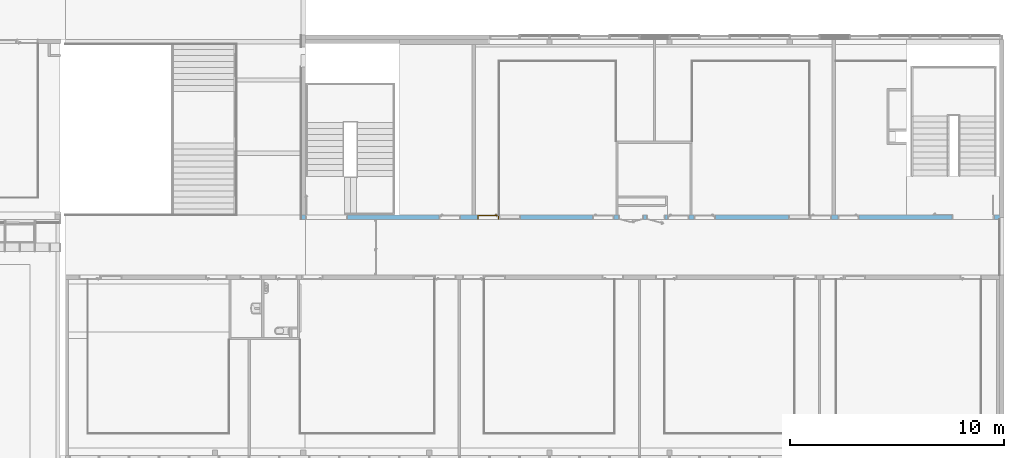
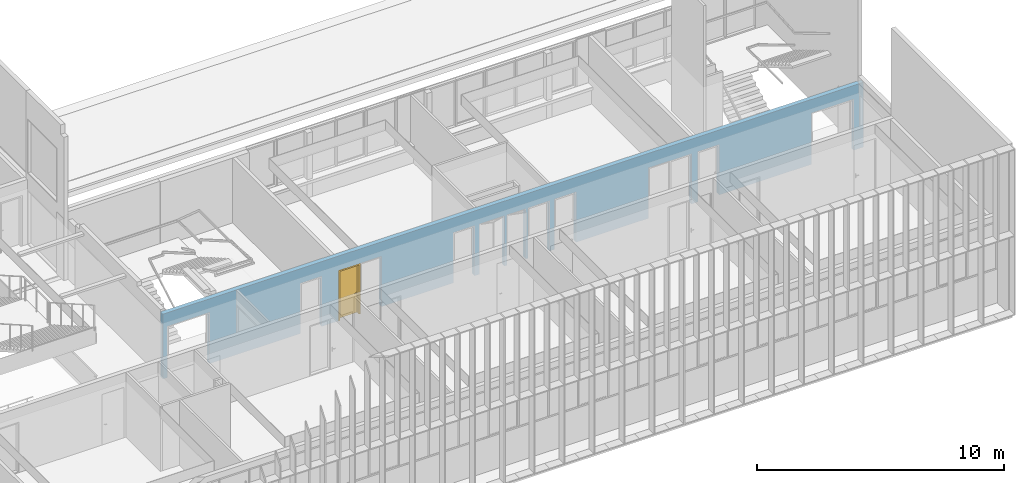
# One storey, part 85 of 106: 1 door, 13 openings, plus 1 element that does not belong to this part.
"""IFC2X3 building model written with IfcOpenShell, lengths in centimetres."""

from ifc_helpers import new_model, entity, si_unit, converted_unit, derived_unit, direction, frame, frame_2d, origin, place, context, subcontext, project, spatial, polyline, rectangle, extrude, clip, bounded_halfspace, faceted_brep, source, transform, mapped, material, material_list, layer, layer_set, layer_usage, type_object, type_shapes, element, fill, save


model = new_model("IFC2X3")

# Units and contexts
model_context = context("Model", 3, precision=0.001, world=origin(), true_north=direction((6.12303176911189e-17, 1.0)))
body_context = subcontext(model_context, "Body", "Model", "MODEL_VIEW")
ifc_project = project(units=[si_unit("LENGTHUNIT", "METRE", prefix="CENTI"), si_unit("AREAUNIT", "SQUARE_METRE"), si_unit("VOLUMEUNIT", "CUBIC_METRE"), converted_unit("PLANEANGLEUNIT", "DEGREE", entity("IfcRatioMeasure", 0.0174532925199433), si_unit("PLANEANGLEUNIT", "RADIAN"), dimensions=[0, 0, 0, 0, 0, 0, 0]), si_unit("MASSUNIT", "GRAM", prefix="KILO"), derived_unit("MASSDENSITYUNIT", [(si_unit("MASSUNIT", "GRAM", prefix="KILO"), 1), (si_unit("LENGTHUNIT", "METRE"), -3)]), si_unit("TIMEUNIT", "SECOND"), si_unit("FREQUENCYUNIT", "HERTZ"), si_unit("THERMODYNAMICTEMPERATUREUNIT", "DEGREE_CELSIUS"), derived_unit("THERMALTRANSMITTANCEUNIT", [(si_unit("MASSUNIT", "GRAM", prefix="KILO"), 1), (si_unit("THERMODYNAMICTEMPERATUREUNIT", "KELVIN"), -1), (si_unit("TIMEUNIT", "SECOND"), -3)]), derived_unit("VOLUMETRICFLOWRATEUNIT", [(si_unit("LENGTHUNIT", "METRE"), 3), (si_unit("TIMEUNIT", "SECOND"), -1)]), si_unit("ELECTRICCURRENTUNIT", "AMPERE"), si_unit("ELECTRICVOLTAGEUNIT", "VOLT"), si_unit("POWERUNIT", "WATT"), si_unit("FORCEUNIT", "NEWTON", prefix="KILO"), si_unit("ILLUMINANCEUNIT", "LUX"), si_unit("LUMINOUSFLUXUNIT", "LUMEN"), si_unit("LUMINOUSINTENSITYUNIT", "CANDELA"), derived_unit("USERDEFINED", [(si_unit("MASSUNIT", "GRAM", prefix="KILO"), -1), (si_unit("LENGTHUNIT", "METRE"), -2), (si_unit("TIMEUNIT", "SECOND"), 3), (si_unit("LUMINOUSFLUXUNIT", "LUMEN"), 1)]), derived_unit("LINEARVELOCITYUNIT", [(si_unit("LENGTHUNIT", "METRE"), 1), (si_unit("TIMEUNIT", "SECOND"), -1)]), si_unit("PRESSUREUNIT", "PASCAL"), derived_unit("USERDEFINED", [(si_unit("LENGTHUNIT", "METRE"), -2), (si_unit("MASSUNIT", "GRAM", prefix="KILO"), 1), (si_unit("TIMEUNIT", "SECOND"), -2)])], contexts=[model_context])

# Site, building, storey
site_placement = place(None, frame((-2781.94577612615, 7442.24238424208, 0.0)))
site = spatial("IfcSite", under=ifc_project, at=site_placement, Name="Default", CompositionType="ELEMENT")
building_placement = place(site_placement, origin())
building = spatial("IfcBuilding", under=site, at=building_placement, CompositionType="ELEMENT")
storey_placement = place(building_placement, frame((0.0, 0.0, 422.0)))
storey = spatial("IfcBuildingStorey", under=building, at=storey_placement, Name="Toiture - Cuisine", CompositionType="ELEMENT", Elevation=421.999999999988)

# Wall, openings, door
ifc_material_1 = material(Name="01 - Maçonnerie")
ifc_layer = layer(ifc_material_1, 20.0)
ifc_layer_set = layer_set([ifc_layer], Name="Mur de base:04 - Structure - béton - 20cm")
ifc_layer_usage = layer_usage(ifc_layer_set, "AXIS2", "NEGATIVE", 10.0)
wall_type = type_object("IfcWallType", Name="Mur de base:04 - Structure - béton - 20cm", PredefinedType="STANDARD", material=ifc_layer_set)
wall_placement = place(building_placement, frame((-3667.99987968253, -1920.07903364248, 422.0)))
wall = element("IfcWallStandardCase", 1, at=wall_placement, inside=storey, type_object=wall_type, material=ifc_layer_usage, Name="Mur de base:04 - Structure - béton - 20cm", ObjectType="Mur de base:04 - Structure - béton - 20cm", context=body_context, shape_type="Clipping", body=[
    clip(clip(extrude(rectangle(XDim=3277.99999684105, YDim=19.9999999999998, at=frame_2d((1638.99999842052, 6.21724893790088e-14), x_axis=(-1.0, 0.0))), origin(), (0.0, 0.0, 1.0), 321.0), bounded_halfspace(frame((0.0, -10.0, 321.0), z_axis=(0.0, 0.0, -1.0), x_axis=(0.0, 1.0, 0.0)), True, frame((0.0, -10.0, 321.0)), polyline([(0.0, 0.0), (20.0, 0.0), (20.0, 20.0), (0.0, 20.0), (0.0, 0.0)]))), bounded_halfspace(frame((458.699996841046, -10.0, 321.0), z_axis=(0.0, 0.0, -1.0), x_axis=(0.0, 1.0, 0.0)), True, frame((458.699996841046, -10.0, 321.0)), polyline([(0.0, 0.0), (2797.3, 0.0), (2799.29999999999, 0.0), (2799.29999999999, 10.0), (2799.29999999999, 20.0), (2034.0, 20.0), (2018.0, 20.0), (1914.0, 20.0), (1912.0, 20.0), (1363.8, 20.0), (1353.8, 20.0), (1249.8, 20.0), (1239.8, 20.0), (1149.8, 20.0), (1139.8, 20.0), (1019.8, 20.0), (1009.8, 20.0), (466.0, 20.0), (464.0, 20.0), (0.0, 20.0), (0.0, 0.0)]))),
])
opening_1_placement = place(wall_placement, frame((2502.69999684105, -10.0, 0.0)))
element("IfcOpeningElement", 2, at=opening_1_placement, cuts=wall, Name="Int. Simple:PP simple (0.93m x 2.50m):1", ObjectType="Opening", context=body_context, shape_type="SweptSolid", body=[
    extrude(rectangle(XDim=248.500000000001, YDim=99.9999999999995, at=frame_2d((124.250000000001, 49.9999999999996), x_axis=(1.0, 0.0))), frame((0.0, 0.0, 0.0), z_axis=(0.0, 1.0, 0.0), x_axis=(0.0, 0.0, 1.0)), (0.0, 0.0, 1.0), 20.0),
])
opening_2_placement = place(wall_placement, frame((2372.69999684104, -10.0, 0.0)))
element("IfcOpeningElement", 3, at=opening_2_placement, cuts=wall, Name="Int. Simple:PV (0.93m x 2.50m):1", ObjectType="Opening", context=body_context, shape_type="SweptSolid", body=[
    extrude(rectangle(XDim=248.500000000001, YDim=99.9999999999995, at=frame_2d((124.250000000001, 49.9999999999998), x_axis=(1.0, 0.0))), frame((0.0, 0.0, 0.0), z_axis=(0.0, 1.0, 0.0), x_axis=(0.0, 0.0, 1.0)), (0.0, 0.0, 1.0), 20.0),
])
opening_3_placement = place(wall_placement, frame((1832.49999684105, -10.0, 0.0)))
element("IfcOpeningElement", 4, at=opening_3_placement, cuts=wall, Name="Int. Simple:PV (0.93m x 2.50m):1", ObjectType="Opening", context=body_context, shape_type="SweptSolid", body=[
    extrude(rectangle(XDim=248.500000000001, YDim=99.9999999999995, at=frame_2d((124.250000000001, 49.9999999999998), x_axis=(1.0, 0.0))), frame((0.0, 0.0, 0.0), z_axis=(0.0, 1.0, 0.0), x_axis=(0.0, 0.0, 1.0)), (0.0, 0.0, 1.0), 20.0),
])
opening_4_placement = place(wall_placement, frame((1708.49999684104, -10.0, 0.0)))
element("IfcOpeningElement", 5, at=opening_4_placement, cuts=wall, Name="Int. Simple:PP simple (0.93m x 2.50m):1", ObjectType="Opening", context=body_context, shape_type="SweptSolid", body=[
    extrude(rectangle(XDim=248.500000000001, YDim=99.9999999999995, at=frame_2d((124.250000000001, 49.9999999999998), x_axis=(1.0, 0.0))), frame((0.0, 0.0, 0.0), z_axis=(0.0, 1.0, 0.0), x_axis=(0.0, 0.0, 1.0)), (0.0, 0.0, 1.0), 20.0),
])
opening_5_placement = place(wall_placement, frame((1358.49999684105, -10.0, 0.0)))
element("IfcOpeningElement", 6, at=opening_5_placement, cuts=wall, Name="Int. Simple:PV (0.93m x 2.50m):1", ObjectType="Opening", context=body_context, shape_type="SweptSolid", body=[
    extrude(rectangle(XDim=248.500000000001, YDim=99.9999999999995, at=frame_2d((124.250000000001, 49.9999999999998), x_axis=(1.0, 0.0))), frame((0.0, 0.0, 0.0), z_axis=(0.0, 1.0, 0.0), x_axis=(0.0, 0.0, 1.0)), (0.0, 0.0, 1.0), 20.0),
])
opening_6_placement = place(wall_placement, frame((822.699996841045, -10.0, 0.0)))
opening_6 = element("IfcOpeningElement", 7, at=opening_6_placement, cuts=wall, Name="Int. Simple:PV (0.93m x 2.50m):1", ObjectType="Opening", context=body_context, shape_type="SweptSolid", body=[
    extrude(rectangle(XDim=248.500000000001, YDim=99.9999999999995, at=frame_2d((124.250000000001, 49.9999999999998), x_axis=(1.0, 0.0))), frame((0.0, 0.0, 0.0), z_axis=(0.0, 1.0, 0.0), x_axis=(0.0, 0.0, 1.0)), (0.0, 0.0, 1.0), 20.0),
])
opening_7_placement = place(wall_placement, frame((642.699996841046, -10.0, 0.0)))
element("IfcOpeningElement", 8, at=opening_7_placement, cuts=wall, Name="Int. Simple:PP simple (0.93m x 2.50m):1", ObjectType="Opening", context=body_context, shape_type="SweptSolid", body=[
    extrude(rectangle(XDim=248.500000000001, YDim=99.9999999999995, at=frame_2d((124.250000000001, 49.9999999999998), x_axis=(1.0, 0.0))), frame((0.0, 0.0, 0.0), z_axis=(0.0, 1.0, 0.0), x_axis=(0.0, 0.0, 1.0)), (0.0, 0.0, 1.0), 20.0),
])
opening_8_placement = place(wall_placement, frame((2272.69999684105, -10.0, 0.0)))
element("IfcOpeningElement", 9, at=opening_8_placement, cuts=wall, Name="châssis intérieur vitré:châssis intérieur vitré (h=270) R+1:1", ObjectType="Opening", context=body_context, shape_type="SweptSolid", body=[
    extrude(rectangle(XDim=250.0, YDim=99.9999999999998, at=frame_2d((125.0, 49.9999999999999), x_axis=(1.0, 0.0))), frame((0.0, 0.0, 0.0), z_axis=(0.0, 1.0, 0.0), x_axis=(0.0, 0.0, 1.0)), (0.0, 0.0, 1.0), 20.0),
])
opening_9_placement = place(wall_placement, frame((922.699996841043, -10.0, 0.0)))
element("IfcOpeningElement", 10, at=opening_9_placement, cuts=wall, Name="châssis intérieur vitré:châssis intérieur vitré (h=270) R+1:1", ObjectType="Opening", context=body_context, shape_type="SweptSolid", body=[
    extrude(rectangle(XDim=250.0, YDim=99.9999999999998, at=frame_2d((125.0, 49.9999999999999), x_axis=(1.0, 0.0))), frame((0.0, 0.0, 0.0), z_axis=(0.0, 1.0, 0.0), x_axis=(0.0, 0.0, 1.0)), (0.0, 0.0, 1.0), 20.0),
])
opening_10_placement = place(wall_placement, frame((1697.0, 10.0, 0.0)))
element("IfcOpeningElement", 11, at=opening_10_placement, cuts=wall, Name="Int. Simple:PP Placard (0.80m x 2.50m):1", ObjectType="Opening", context=body_context, shape_type="SweptSolid", body=[
    extrude(rectangle(XDim=248.500000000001, YDim=86.9999999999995, at=frame_2d((124.250000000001, 43.4999999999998), x_axis=(1.0, 0.0))), frame((0.0, 0.0, 0.0), z_axis=(0.0, -1.0, 0.0), x_axis=(0.0, 0.0, 1.0)), (0.0, 0.0, 1.0), 20.0),
])
opening_11_placement = place(wall_placement, frame((1597.0, 10.0, 0.0)))
element("IfcOpeningElement", 12, at=opening_11_placement, cuts=wall, Name="Int. Double:PP Placard (1.10m x 2.50m):1", ObjectType="Opening", context=body_context, shape_type="SweptSolid", body=[
    extrude(rectangle(XDim=248.500000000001, YDim=117.0, at=frame_2d((124.250000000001, 58.5000000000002), x_axis=(1.0, 0.0))), frame((0.0, 0.0, 0.0), z_axis=(0.0, -1.0, 0.0), x_axis=(0.0, 0.0, 1.0)), (0.0, 0.0, 1.0), 20.0),
])
opening_12_placement = place(wall_placement, frame((3035.69999684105, -10.0, 0.0)))
element("IfcOpeningElement", 13, at=opening_12_placement, cuts=wall, Name="Int. Double:PP (1.90m x 2.50m):1", ObjectType="Opening", context=body_context, shape_type="SweptSolid", body=[
    extrude(rectangle(XDim=253.500000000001, YDim=197.0, at=frame_2d((126.750000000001, 98.5000000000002), x_axis=(1.0, 0.0))), frame((0.0, 0.0, 0.0), z_axis=(0.0, 1.0, 0.0), x_axis=(0.0, 0.0, 1.0)), (0.0, 0.0, 1.0), 20.0),
])
opening_13_placement = place(wall_placement, frame((20.0, -10.0, 0.0)))
element("IfcOpeningElement", 14, at=opening_13_placement, cuts=wall, Name="Int. Double:PP (1.90m x 2.50m):1", ObjectType="Opening", context=body_context, shape_type="SweptSolid", body=[
    extrude(rectangle(XDim=253.500000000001, YDim=197.0, at=frame_2d((126.750000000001, 98.5), x_axis=(1.0, 0.0))), frame((0.0, 0.0, 0.0), z_axis=(0.0, 1.0, 0.0), x_axis=(0.0, 0.0, 1.0)), (0.0, 0.0, 1.0), 20.0),
])
ifc_material_2 = material(Name="Finition Peinture - Blanc satiné")
ifc_material_3 = material(Name="Bois - Panneau de porte")
ifc_material_4 = material(Name="Bois - Cadre de porte")
ifc_material_list_1 = material_list([ifc_material_2, ifc_material_3, ifc_material_4])
ifc_material_list_2 = material_list([ifc_material_2, ifc_material_3, ifc_material_4])
door_style = type_object("IfcDoorStyle", Name="PV (0.93m x 2.50m)", ConstructionType="NOTDEFINED", OperationType="SINGLE_SWING_LEFT", ParameterTakesPrecedence=False, Sizeable=False, material=ifc_material_list_2)
shared_shape = source(origin(), body_context, "Body", "Brep", [
    faceted_brep([(10.5352761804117, -0.500000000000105, 86.6003983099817), (11.5000000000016, -0.500000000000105, 87.0), (11.5000000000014, -0.500000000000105, 108.0), (10.5352761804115, -0.500000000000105, 108.399601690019), (9.50000000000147, -0.500000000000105, 108.535898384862), (8.46472381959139, -0.500000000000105, 108.399601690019), (7.50000000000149, -0.500000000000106, 108.0), (7.50000000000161, -0.500000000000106, 87.0), (8.46472381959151, -0.500000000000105, 86.6003983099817), (9.50000000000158, -0.500000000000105, 86.464101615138), (10.5352761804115, 0.0, 108.399601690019), (11.5000000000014, 0.0, 108.0), (11.5000000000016, 0.0, 87.0), (10.5352761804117, 0.0, 86.6003983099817), (9.50000000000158, 0.0, 86.464101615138), (8.46472381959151, 0.0, 86.6003983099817), (7.50000000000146, 0.0, 87.0), (7.50000000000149, 0.0, 108.0), (8.46472381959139, 0.0, 108.399601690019), (9.50000000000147, 0.0, 108.535898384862)], [[[0, 1, 2, 3, 4, 5, 6, 7, 8, 9]], [[10, 11, 12, 13, 14, 15, 16, 17, 18, 19]], [[16, 15, 8, 7]], [[8, 15, 14, 9]], [[14, 13, 0, 9]], [[13, 12, 1, 0]], [[2, 1, 12, 11]], [[11, 10, 3, 2]], [[3, 10, 19, 4]], [[19, 18, 5, 4]], [[18, 17, 6, 5]], [[7, 6, 17, 16]]]),
    faceted_brep([(10.5352761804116, 4.0, 86.6003983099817), (11.5000000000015, 4.0, 87.0), (11.5000000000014, 4.0, 108.0), (10.5352761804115, 4.0, 108.399601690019), (9.50000000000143, 4.0, 108.535898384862), (8.46472381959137, 4.0, 108.399601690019), (7.50000000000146, 4.0, 108.0), (7.50000000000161, 4.0, 87.0), (8.46472381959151, 4.0, 86.6003983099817), (9.50000000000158, 4.0, 86.464101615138), (10.5352761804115, 4.49999999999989, 108.399601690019), (11.5000000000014, 4.49999999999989, 108.0), (11.5000000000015, 4.49999999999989, 87.0), (10.5352761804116, 4.49999999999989, 86.6003983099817), (9.50000000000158, 4.49999999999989, 86.464101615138), (8.46472381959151, 4.49999999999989, 86.6003983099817), (7.50000000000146, 4.49999999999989, 87.0), (7.50000000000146, 4.49999999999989, 108.0), (8.46472381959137, 4.49999999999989, 108.399601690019), (9.50000000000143, 4.49999999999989, 108.535898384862)], [[[0, 1, 2, 3, 4, 5, 6, 7, 8, 9]], [[10, 11, 12, 13, 14, 15, 16, 17, 18, 19]], [[11, 10, 3, 2]], [[3, 10, 19, 4]], [[19, 18, 5, 4]], [[18, 17, 6, 5]], [[7, 6, 17, 16]], [[16, 15, 8, 7]], [[8, 15, 14, 9]], [[14, 13, 0, 9]], [[13, 12, 1, 0]], [[2, 1, 12, 11]]]),
    faceted_brep([(9.29747013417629, -0.500000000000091, 100.778044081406), (9.70252986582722, -0.500000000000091, 100.778044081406), (10.1000000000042, -0.500000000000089, 100.699999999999), (10.1000000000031, -0.500000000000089, 99.3000000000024), (9.7025298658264, -0.500000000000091, 99.2219559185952), (9.29747013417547, -0.500000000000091, 99.221955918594), (8.8999999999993, -0.500000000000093, 99.2999999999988), (8.89999999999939, -0.500000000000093, 100.7), (8.89999999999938, -3.26509507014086, 100.7), (9.29747013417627, -3.10045754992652, 100.778044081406), (10.9023585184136, -4.70534593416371, 100.778044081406), (11.0701397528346, -4.30028620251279, 100.778044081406), (9.7025298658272, -2.93267631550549, 100.778044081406), (10.1000000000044, -2.76803879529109, 100.7), (10.1000000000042, -2.76803879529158, 99.3000000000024), (9.7025298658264, -2.93267631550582, 99.2219559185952), (11.0701397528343, -4.30028620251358, 99.2219559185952), (10.9023585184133, -4.70534593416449, 99.221955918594), (9.29747013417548, -3.10045754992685, 99.221955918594), (8.89999999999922, -3.26509507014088, 99.2999999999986), (10.7377209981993, -5.10281606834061, 100.7), (11.2347772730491, -3.90281606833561, 100.7), (11.2347772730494, -3.90281606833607, 99.3000000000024), (10.7377209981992, -5.10281606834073, 99.2999999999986), (19.5018640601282, -5.1028160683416, 99.2999999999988), (19.5018640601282, -4.70534593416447, 99.221955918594), (19.5018640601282, -4.30028620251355, 99.2219559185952), (19.5018640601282, -3.90281606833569, 99.3000000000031), (19.5018640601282, -3.90281606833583, 100.7), (19.5018640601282, -4.30028620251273, 100.778044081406), (19.5018640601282, -4.70534593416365, 100.778044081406), (19.5018640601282, -5.10281606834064, 100.699999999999), (14.7307697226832, -5.10281606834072, 100.7), (15.2860019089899, -4.5028160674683, 100.78786867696), (15.3683206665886, -3.9028160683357, 100.7), (15.3683206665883, -3.90281606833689, 99.3000000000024), (15.2860018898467, -4.50281607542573, 99.2121313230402), (14.7307700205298, -5.10281606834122, 99.2999999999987)], [[[0, 1, 2, 3, 4, 5, 6, 7]], [[8, 9, 0, 7]], [[9, 10, 11, 12, 1, 0]], [[12, 13, 2, 1]], [[3, 2, 13, 14]], [[14, 15, 4, 3]], [[15, 16, 17, 18, 5, 4]], [[18, 19, 6, 5]], [[7, 6, 19, 8]], [[20, 10, 9, 8]], [[11, 21, 13, 12]], [[14, 13, 21, 22]], [[22, 16, 15, 14]], [[17, 23, 19, 18]], [[8, 19, 23, 20]], [[24, 25, 26, 27, 28, 29, 30, 31]], [[32, 30, 33]], [[31, 30, 32]], [[10, 20, 32]], [[33, 34, 11]], [[21, 11, 34]], [[34, 29, 28]], [[30, 29, 33]], [[29, 34, 33]], [[10, 32, 33]], [[10, 33, 11]], [[22, 21, 34, 28, 27, 35]], [[35, 26, 36]], [[37, 36, 25]], [[22, 35, 16]], [[35, 27, 26]], [[24, 37, 25]], [[23, 17, 37]], [[37, 17, 36]], [[17, 16, 36]], [[16, 35, 36]], [[25, 36, 26]], [[20, 23, 37, 24, 31, 32]]]),
    faceted_brep([(9.29747013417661, 4.49999999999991, 100.778044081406), (8.89999999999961, 4.4999999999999, 100.7), (8.89999999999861, 4.4999999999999, 99.2999999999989), (9.29747013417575, 4.49999999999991, 99.221955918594), (9.70252986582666, 4.49999999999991, 99.2219559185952), (10.1000000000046, 4.49999999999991, 99.3000000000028), (10.1000000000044, 4.49999999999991, 100.7), (9.70252986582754, 4.49999999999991, 100.778044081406), (10.1000000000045, 6.7485204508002, 99.3000000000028), (10.1000000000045, 6.74852045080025, 100.7), (9.70252986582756, 6.91315797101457, 100.778044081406), (11.083890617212, 8.29451872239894, 100.778044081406), (10.916109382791, 8.69957845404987, 100.778044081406), (9.29747013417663, 7.0809392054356, 100.778044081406), (8.89999999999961, 7.24557672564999, 100.7), (8.89999999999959, 7.2455767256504, 99.2999999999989), (9.29747013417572, 7.08093920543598, 99.221955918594), (10.9161093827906, 8.69957845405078, 99.221955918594), (11.0838906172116, 8.29451872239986, 99.2219559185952), (9.70252986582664, 6.91315797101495, 99.2219559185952), (11.2485281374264, 7.89704858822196, 99.3000000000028), (11.2485281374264, 7.89704858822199, 100.7), (10.7514718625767, 9.09704858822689, 100.7), (10.7514718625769, 9.0970485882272, 99.2999999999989), (19.5045783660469, 7.89704858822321, 99.3000000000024), (19.5045783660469, 8.29451872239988, 99.2219559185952), (19.5045783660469, 8.6995784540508, 99.221955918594), (19.5045783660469, 9.09704858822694, 99.2999999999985), (19.5045783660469, 9.09704858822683, 100.7), (19.5045783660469, 8.69957845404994, 100.778044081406), (19.5045783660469, 8.29451872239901, 100.778044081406), (19.5045783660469, 7.89704858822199, 100.7), (15.3765520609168, 7.89704858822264, 99.3000000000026), (15.3765532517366, 7.89704858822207, 100.7), (15.294234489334, 8.49704858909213, 100.78786867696), (14.7445205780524, 9.09704858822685, 100.7), (14.7445204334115, 9.09704858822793, 99.2999999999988), (15.2942345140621, 8.49704858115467, 99.2121313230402)], [[[0, 1, 2, 3, 4, 5, 6, 7]], [[6, 5, 8, 9]], [[9, 10, 7, 6]], [[10, 11, 12, 13, 0, 7]], [[13, 14, 1, 0]], [[2, 1, 14, 15]], [[15, 16, 3, 2]], [[16, 17, 18, 19, 4, 3]], [[19, 8, 5, 4]], [[9, 8, 20, 21]], [[21, 11, 10, 9]], [[12, 22, 14, 13]], [[15, 14, 22, 23]], [[23, 17, 16, 15]], [[18, 20, 8, 19]], [[24, 25, 26, 27, 28, 29, 30, 31]], [[21, 20, 32, 24, 31, 33]], [[33, 30, 34]], [[35, 34, 29]], [[21, 33, 11]], [[33, 31, 30]], [[28, 35, 29]], [[22, 12, 35]], [[35, 12, 34]], [[12, 11, 34]], [[11, 33, 34]], [[29, 34, 30]], [[22, 35, 28, 27, 36, 23]], [[36, 26, 37]], [[27, 26, 36]], [[17, 23, 36]], [[37, 32, 18]], [[20, 18, 32]], [[32, 25, 24]], [[26, 25, 37]], [[25, 32, 37]], [[17, 36, 37]], [[17, 37, 18]]]),
    faceted_brep([(3.50000000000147, 4.0, 245.0), (96.5000000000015, 4.0, 245.0), (96.5000000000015, 4.0, 0.0), (3.50000000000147, 4.0, 0.0), (3.50000000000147, 0.0, 245.0), (3.50000000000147, 0.0, 0.0), (96.5000000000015, 0.0, 0.0), (96.5000000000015, 0.0, 245.0)], [[[0, 1, 2, 3]], [[4, 5, 6, 7]], [[1, 0, 4, 7]], [[2, 1, 7, 6]], [[3, 2, 6, 5]], [[0, 3, 5, 4]]]),
    faceted_brep([(0.0, 20.0, 0.0), (-1.50000000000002, 20.0, 0.0), (-1.50000000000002, 20.5000000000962, 0.0), (5.0, 20.5000000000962, 0.0), (5.0, 4.0, 0.0), (3.50000000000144, 4.0, 0.0), (3.50000000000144, -0.500000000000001, 0.0), (-1.50000000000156, -0.500000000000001, 0.0), (-1.50000000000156, 0.0, 0.0), (0.0, 0.0, 0.0), (0.0, 20.0, 248.500000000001), (100.0, 20.0, 248.500000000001), (100.0, 20.0, 0.0), (101.5, 20.0, 0.0), (101.5, 20.0, 250.0), (-1.50000000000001, 20.0, 250.0), (-1.50000000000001, 20.5000000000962, 250.0), (101.5, 20.5000000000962, 250.0), (101.5, 20.5000000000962, 0.0), (95.0, 20.5000000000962, 0.0), (95.0, 20.5000000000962, 243.5), (5.0, 20.5000000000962, 243.5), (5.0, 4.0, 243.5), (95.0, 4.0, 243.5), (95.0, 4.0, 0.0), (96.499999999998, 4.0, 0.0), (96.499999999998, 4.0, 245.0), (3.50000000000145, 4.0, 245.0), (3.50000000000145, -0.500000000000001, 245.0), (96.499999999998, -0.500000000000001, 245.0), (96.499999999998, -0.500000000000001, 0.0), (101.500000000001, -0.500000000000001, 0.0), (101.500000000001, -0.500000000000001, 250.0), (-1.50000000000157, -0.500000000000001, 250.0), (-1.50000000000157, 0.0, 250.0), (101.500000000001, 0.0, 250.0), (101.500000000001, 0.0, 0.0), (100.0, 0.0, 0.0), (100.0, 0.0, 248.500000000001), (0.0, 0.0, 248.500000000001)], [[[0, 1, 2, 3, 4, 5, 6, 7, 8, 9]], [[1, 0, 10, 11, 12, 13, 14, 15]], [[2, 1, 15, 16]], [[3, 2, 16, 17, 18, 19, 20, 21]], [[3, 21, 22, 4]], [[5, 4, 22, 23, 24, 25, 26, 27]], [[5, 27, 28, 6]], [[7, 6, 28, 29, 30, 31, 32, 33]], [[8, 7, 33, 34]], [[9, 8, 34, 35, 36, 37, 38, 39]], [[0, 9, 39, 10]], [[11, 38, 37, 12]], [[12, 37, 36, 31, 30, 25, 24, 19, 18, 13]], [[17, 14, 13, 18]], [[23, 20, 19, 24]], [[29, 26, 25, 30]], [[35, 32, 31, 36]], [[16, 15, 14, 17]], [[22, 21, 20, 23]], [[28, 27, 26, 29]], [[34, 33, 32, 35]], [[10, 39, 38, 11]]]),
])
type_shapes(door_style, [shared_shape])
door_placement = place(opening_6_placement, frame((100.0, 20.0, 0.0), z_axis=(0.0, 0.0, 1.0), x_axis=(-1.0, 0.0, 0.0)))
door = element("IfcDoor", 15, at=door_placement, inside=storey, type_object=door_style, material=ifc_material_list_1, Name="Int. Simple:PV (0.93m x 2.50m)", ObjectType="Int. Simple:PV (0.93m x 2.50m)", OverallHeight=248.500000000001, OverallWidth=99.9999999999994, context=body_context, shape_type="MappedRepresentation", body=[
    mapped(shared_shape, transform((0.0, 0.0, 0.0), scale=1.0)),
])
fill(opening_6, door)

save(model, "model.ifc")
